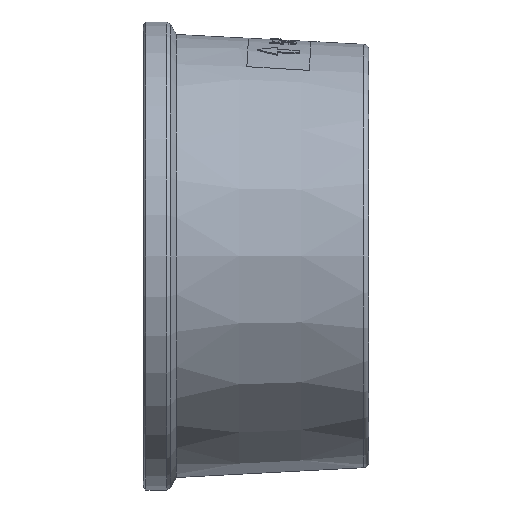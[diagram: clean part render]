
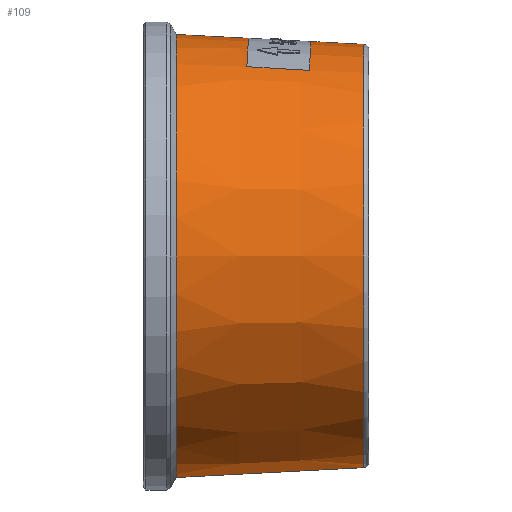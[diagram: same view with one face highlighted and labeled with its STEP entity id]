
A CAD part, left-side view. The second image highlights one B-rep face of the part: STEP entity #109.
In plain terms, the highlighted conical face has half-angle 3 degrees and reference radius 84.474 mm.
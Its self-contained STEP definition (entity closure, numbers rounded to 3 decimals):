
#105 = EDGE_LOOP ( 'NONE', ( #365, #139, #112, #137, #117, #119, #127, #134 ) ) ;
#109 = ADVANCED_FACE ( 'NONE', ( #19100 ), #19144, .T. ) ;
#112 = ORIENTED_EDGE ( 'NONE', *, *, #18380, .T. ) ;
#113 = EDGE_CURVE ( 'NONE', #18280, #18279, #19088, .T. ) ;
#116 = EDGE_CURVE ( 'NONE', #5372, #4113, #19209, .T. ) ;
#117 = ORIENTED_EDGE ( 'NONE', *, *, #29946, .F. ) ;
#119 = ORIENTED_EDGE ( 'NONE', *, *, #29929, .F. ) ;
#127 = ORIENTED_EDGE ( 'NONE', *, *, #18256, .T. ) ;
#134 = ORIENTED_EDGE ( 'NONE', *, *, #113, .T. ) ;
#137 = ORIENTED_EDGE ( 'NONE', *, *, #29925, .F. ) ;
#139 = ORIENTED_EDGE ( 'NONE', *, *, #116, .T. ) ;
#365 = ORIENTED_EDGE ( 'NONE', *, *, #18261, .F. ) ;
#4113 = VERTEX_POINT ( 'NONE', #4935 ) ;
#4935 = CARTESIAN_POINT ( 'NONE',  ( 0., 1.895, 84.574 ) ) ;
#4987 = CARTESIAN_POINT ( 'NONE',  ( 0., 1.895, -84.574 ) ) ;
#5372 = VERTEX_POINT ( 'NONE', #4987 ) ;
#18240 = VERTEX_POINT ( 'NONE', #18581 ) ;
#18249 = VERTEX_POINT ( 'NONE', #18592 ) ;
#18256 = EDGE_CURVE ( 'NONE', #18249, #18280, #18552, .T. ) ;
#18261 = EDGE_CURVE ( 'NONE', #5372, #18279, #18563, .T. ) ;
#18279 = VERTEX_POINT ( 'NONE', #18610 ) ;
#18280 = VERTEX_POINT ( 'NONE', #18605 ) ;
#18380 = EDGE_CURVE ( 'NONE', #4113, #18240, #19146, .T. ) ;
#18552 = LINE ( 'NONE', #18657, #18656 ) ;
#18563 = LINE ( 'NONE', #18636, #18634 ) ;
#18581 = CARTESIAN_POINT ( 'NONE',  ( 0., 23.072, 85.684 ) ) ;
#18592 = CARTESIAN_POINT ( 'NONE',  ( 0., 48.038, 86.992 ) ) ;
#18605 = CARTESIAN_POINT ( 'NONE',  ( 0., 76.813, 88.5 ) ) ;
#18610 = CARTESIAN_POINT ( 'NONE',  ( 0., 76.813, -88.5 ) ) ;
#18633 = DIRECTION ( 'NONE',  ( 0., 0.999, -0.052 ) ) ;
#18634 = VECTOR ( 'NONE', #18633, 1000. ) ;
#18636 = CARTESIAN_POINT ( 'NONE',  ( 0., 0., -84.474 ) ) ;
#18655 = DIRECTION ( 'NONE',  ( 0., 0.999, 0.052 ) ) ;
#18656 = VECTOR ( 'NONE', #18655, 1000. ) ;
#18657 = CARTESIAN_POINT ( 'NONE',  ( 0., 0., 84.474 ) ) ;
#19077 = CARTESIAN_POINT ( 'NONE',  ( 0., 76.813, 0. ) ) ;
#19083 = DIRECTION ( 'NONE',  ( 0., 0., 1. ) ) ;
#19088 = CIRCLE ( 'NONE', #19094, 88.5 ) ;
#19089 = DIRECTION ( 'NONE',  ( 0., 1., 0. ) ) ;
#19094 = AXIS2_PLACEMENT_3D ( 'NONE', #19077, #19203, #19202 ) ;
#19100 = FACE_OUTER_BOUND ( 'NONE', #105, .T. ) ;
#19108 = CARTESIAN_POINT ( 'NONE',  ( 0., 0., 0. ) ) ;
#19112 = AXIS2_PLACEMENT_3D ( 'NONE', #19108, #19089, #19083 ) ;
#19144 = CONICAL_SURFACE ( 'NONE', #19112, 84.474, 0.052 ) ;
#19146 = LINE ( 'NONE', #19228, #19226 ) ;
#19160 = DIRECTION ( 'NONE',  ( 0., 0., -1. ) ) ;
#19162 = DIRECTION ( 'NONE',  ( 0., 1., 0. ) ) ;
#19164 = AXIS2_PLACEMENT_3D ( 'NONE', #19176, #19162, #19160 ) ;
#19176 = CARTESIAN_POINT ( 'NONE',  ( 0., 1.895, 0. ) ) ;
#19202 = DIRECTION ( 'NONE',  ( 0., 0., -1. ) ) ;
#19203 = DIRECTION ( 'NONE',  ( 0., -1., 0. ) ) ;
#19209 = CIRCLE ( 'NONE', #19164, 84.574 ) ;
#19225 = DIRECTION ( 'NONE',  ( 0., 0.999, 0.052 ) ) ;
#19226 = VECTOR ( 'NONE', #19225, 1000. ) ;
#19228 = CARTESIAN_POINT ( 'NONE',  ( 0., 0., 84.474 ) ) ;
#25594 = CARTESIAN_POINT ( 'NONE',  ( -42.966, 23.689, 74.17 ) ) ;
#25843 = CARTESIAN_POINT ( 'NONE',  ( -43.026, 48.646, 75.643 ) ) ;
#25845 = CARTESIAN_POINT ( 'NONE',  ( -36.503, 48.443, 79.342 ) ) ;
#25847 = CARTESIAN_POINT ( 'NONE',  ( -29.501, 48.291, 82.194 ) ) ;
#25849 = CARTESIAN_POINT ( 'NONE',  ( -14.999, 48.088, 86.019 ) ) ;
#25851 = CARTESIAN_POINT ( 'NONE',  ( -7.5, 48.038, 86.992 ) ) ;
#25853 = CARTESIAN_POINT ( 'NONE',  ( 0., 48.038, 86.992 ) ) ;
#25865 = CARTESIAN_POINT ( 'NONE',  ( 0., 23.072, 85.684 ) ) ;
#25867 = CARTESIAN_POINT ( 'NONE',  ( -3.75, 23.072, 85.684 ) ) ;
#25869 = CARTESIAN_POINT ( 'NONE',  ( -7.5, 23.085, 85.438 ) ) ;
#25871 = CARTESIAN_POINT ( 'NONE',  ( -14.935, 23.136, 84.459 ) ) ;
#25873 = CARTESIAN_POINT ( 'NONE',  ( -18.621, 23.175, 83.725 ) ) ;
#25875 = CARTESIAN_POINT ( 'NONE',  ( -25.864, 23.278, 81.784 ) ) ;
#25877 = CARTESIAN_POINT ( 'NONE',  ( -29.422, 23.342, 80.576 ) ) ;
#25879 = CARTESIAN_POINT ( 'NONE',  ( -36.349, 23.496, 77.706 ) ) ;
#25881 = CARTESIAN_POINT ( 'NONE',  ( -39.719, 23.586, 76.044 ) ) ;
#25883 = CARTESIAN_POINT ( 'NONE',  ( -42.966, 23.689, 74.17 ) ) ;
#25885 = B_SPLINE_CURVE_WITH_KNOTS ( 'NONE', 3,
 ( #25853, #25851, #25849, #25847, #25845, #25843 ),
 .UNSPECIFIED., .F., .F.,
 ( 4, 2, 4 ),
 ( 0.5, 0.75, 1. ),
 .UNSPECIFIED. ) ;
#25896 = B_SPLINE_CURVE_WITH_KNOTS ( 'NONE', 3,
 ( #25883, #25881, #25879, #25877, #25875, #25873, #25871, #25869, #25867, #25865 ),
 .UNSPECIFIED., .F., .F.,
 ( 4, 2, 2, 2, 4 ),
 ( 0., 0.125, 0.25, 0.375, 0.5 ),
 .UNSPECIFIED. ) ;
#25932 = CARTESIAN_POINT ( 'NONE',  ( -42.966, 23.689, 74.17 ) ) ;
#25933 = CARTESIAN_POINT ( 'NONE',  ( -42.986, 31.945, 74.658 ) ) ;
#25935 = CARTESIAN_POINT ( 'NONE',  ( -43.006, 40.264, 75.149 ) ) ;
#25937 = CARTESIAN_POINT ( 'NONE',  ( -43.026, 48.646, 75.643 ) ) ;
#25945 = B_SPLINE_CURVE_WITH_KNOTS ( 'NONE', 3,
 ( #25937, #25935, #25933, #25932 ),
 .UNSPECIFIED., .F., .F.,
 ( 4, 4 ),
 ( 0., 1. ),
 .UNSPECIFIED. ) ;
#25971 = CARTESIAN_POINT ( 'NONE',  ( -43.026, 48.646, 75.643 ) ) ;
#29889 = VERTEX_POINT ( 'NONE', #25594 ) ;
#29925 = EDGE_CURVE ( 'NONE', #29889, #18240, #25896, .T. ) ;
#29929 = EDGE_CURVE ( 'NONE', #18249, #29939, #25885, .T. ) ;
#29939 = VERTEX_POINT ( 'NONE', #25971 ) ;
#29946 = EDGE_CURVE ( 'NONE', #29939, #29889, #25945, .T. ) ;
